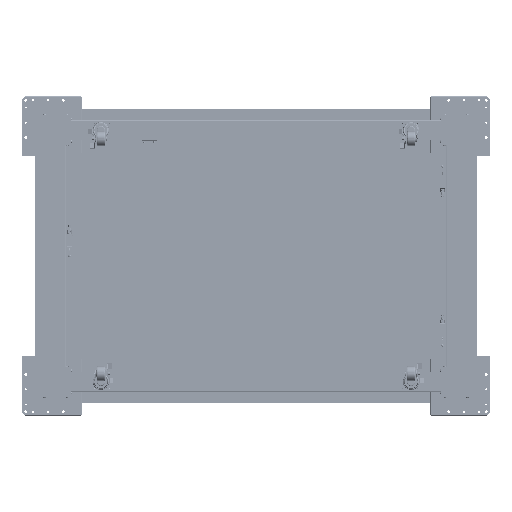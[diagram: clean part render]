
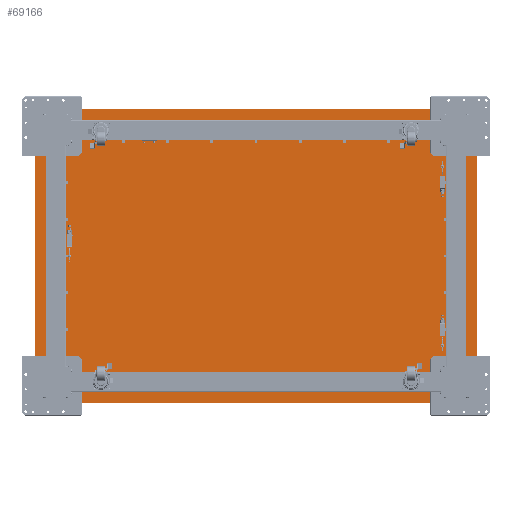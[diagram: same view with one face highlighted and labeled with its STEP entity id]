
A CAD part, front view. The second image highlights one B-rep face of the part: STEP entity #69166.
In plain terms, the highlighted planar face has unit normal (0, -1, 0).
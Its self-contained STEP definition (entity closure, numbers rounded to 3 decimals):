
#10168 = CARTESIAN_POINT ( 'NONE',  ( 739., 341.5, 489. ) ) ;
#12133 = EDGE_CURVE ( 'NONE', #94933, #221577, #84000, .T. ) ;
#16434 = VECTOR ( 'NONE', #85301, 1000. ) ;
#19701 = DIRECTION ( 'NONE',  ( -1., 0., 0. ) ) ;
#20549 = CARTESIAN_POINT ( 'NONE',  ( -750., 341.5, -489. ) ) ;
#26200 = DIRECTION ( 'NONE',  ( 0., 0., -1. ) ) ;
#26575 = CARTESIAN_POINT ( 'NONE',  ( 750., 341.5, 489. ) ) ;
#30735 = CIRCLE ( 'NONE', #113732, 11. ) ;
#33969 = CARTESIAN_POINT ( 'NONE',  ( -750., 341.5, 489. ) ) ;
#33983 = ORIENTED_EDGE ( 'NONE', *, *, #169808, .F. ) ;
#39040 = EDGE_CURVE ( 'NONE', #247174, #94933, #30735, .T. ) ;
#40831 = CARTESIAN_POINT ( 'NONE',  ( 739., 341.5, -500. ) ) ;
#42785 = EDGE_CURVE ( 'NONE', #144703, #167366, #194023, .T. ) ;
#42997 = VECTOR ( 'NONE', #223217, 1000. ) ;
#61715 = DIRECTION ( 'NONE',  ( -1., 0., 0. ) ) ;
#63819 = VERTEX_POINT ( 'NONE', #192638 ) ;
#67084 = CARTESIAN_POINT ( 'NONE',  ( -750., 341.5, 489. ) ) ;
#69055 = CARTESIAN_POINT ( 'NONE',  ( 750., 341.5, 489. ) ) ;
#69166 = ADVANCED_FACE ( 'NONE', ( #192573 ), #127982, .T. ) ;
#73832 = DIRECTION ( 'NONE',  ( 1., 0., 0. ) ) ;
#74221 = DIRECTION ( 'NONE',  ( 0., -1., 0. ) ) ;
#75640 = EDGE_CURVE ( 'NONE', #246016, #144703, #167911, .T. ) ;
#79640 = CARTESIAN_POINT ( 'NONE',  ( 750., 341.5, -489. ) ) ;
#82472 = CARTESIAN_POINT ( 'NONE',  ( -739., 341.5, 489. ) ) ;
#83052 = AXIS2_PLACEMENT_3D ( 'NONE', #108480, #74221, #88941 ) ;
#84000 = LINE ( 'NONE', #67084, #16434 ) ;
#85301 = DIRECTION ( 'NONE',  ( 0., 0., 1. ) ) ;
#88941 = DIRECTION ( 'NONE',  ( -1., 0., 0. ) ) ;
#92803 = CARTESIAN_POINT ( 'NONE',  ( 739., 341.5, -489. ) ) ;
#94933 = VERTEX_POINT ( 'NONE', #20549 ) ;
#98190 = ORIENTED_EDGE ( 'NONE', *, *, #149322, .F. ) ;
#98857 = EDGE_LOOP ( 'NONE', ( #120337, #205814, #103785, #98190, #33983, #130690, #163373, #221254 ) ) ;
#103785 = ORIENTED_EDGE ( 'NONE', *, *, #150768, .F. ) ;
#108480 = CARTESIAN_POINT ( 'NONE',  ( 739., 341.5, -489. ) ) ;
#113732 = AXIS2_PLACEMENT_3D ( 'NONE', #256377, #216108, #19701 ) ;
#116972 = LINE ( 'NONE', #218368, #117520 ) ;
#117520 = VECTOR ( 'NONE', #178078, 1000. ) ;
#118454 = CARTESIAN_POINT ( 'NONE',  ( -739., 341.5, 500. ) ) ;
#120337 = ORIENTED_EDGE ( 'NONE', *, *, #42785, .F. ) ;
#127982 = PLANE ( 'NONE',  #83052 ) ;
#130690 = ORIENTED_EDGE ( 'NONE', *, *, #12133, .F. ) ;
#142305 = DIRECTION ( 'NONE',  ( 0., 1., 0. ) ) ;
#144703 = VERTEX_POINT ( 'NONE', #79640 ) ;
#147011 = AXIS2_PLACEMENT_3D ( 'NONE', #10168, #251963, #73832 ) ;
#149322 = EDGE_CURVE ( 'NONE', #190328, #63819, #116972, .T. ) ;
#150768 = EDGE_CURVE ( 'NONE', #63819, #246016, #159463, .T. ) ;
#152481 = AXIS2_PLACEMENT_3D ( 'NONE', #92803, #153897, #152618 ) ;
#152618 = DIRECTION ( 'NONE',  ( -1., 0., 0. ) ) ;
#153897 = DIRECTION ( 'NONE',  ( 0., 1., 0. ) ) ;
#159463 = CIRCLE ( 'NONE', #147011, 11. ) ;
#163373 = ORIENTED_EDGE ( 'NONE', *, *, #39040, .F. ) ;
#167366 = VERTEX_POINT ( 'NONE', #40831 ) ;
#167911 = LINE ( 'NONE', #69055, #215642 ) ;
#169808 = EDGE_CURVE ( 'NONE', #221577, #190328, #230617, .T. ) ;
#175254 = LINE ( 'NONE', #182927, #42997 ) ;
#178078 = DIRECTION ( 'NONE',  ( 1., 0., 0. ) ) ;
#181405 = CARTESIAN_POINT ( 'NONE',  ( -739., 341.5, -500. ) ) ;
#182927 = CARTESIAN_POINT ( 'NONE',  ( -739., 341.5, -500. ) ) ;
#188081 = EDGE_CURVE ( 'NONE', #167366, #247174, #175254, .T. ) ;
#190328 = VERTEX_POINT ( 'NONE', #118454 ) ;
#192573 = FACE_OUTER_BOUND ( 'NONE', #98857, .T. ) ;
#192638 = CARTESIAN_POINT ( 'NONE',  ( 739., 341.5, 500. ) ) ;
#194023 = CIRCLE ( 'NONE', #152481, 11. ) ;
#205814 = ORIENTED_EDGE ( 'NONE', *, *, #75640, .F. ) ;
#215642 = VECTOR ( 'NONE', #26200, 1000. ) ;
#216108 = DIRECTION ( 'NONE',  ( 0., 1., 0. ) ) ;
#218368 = CARTESIAN_POINT ( 'NONE',  ( -739., 341.5, 500. ) ) ;
#221254 = ORIENTED_EDGE ( 'NONE', *, *, #188081, .F. ) ;
#221577 = VERTEX_POINT ( 'NONE', #33969 ) ;
#223217 = DIRECTION ( 'NONE',  ( -1., 0., 0. ) ) ;
#226535 = AXIS2_PLACEMENT_3D ( 'NONE', #82472, #142305, #61715 ) ;
#230617 = CIRCLE ( 'NONE', #226535, 11. ) ;
#246016 = VERTEX_POINT ( 'NONE', #26575 ) ;
#247174 = VERTEX_POINT ( 'NONE', #181405 ) ;
#251963 = DIRECTION ( 'NONE',  ( 0., 1., 0. ) ) ;
#256377 = CARTESIAN_POINT ( 'NONE',  ( -739., 341.5, -489. ) ) ;
